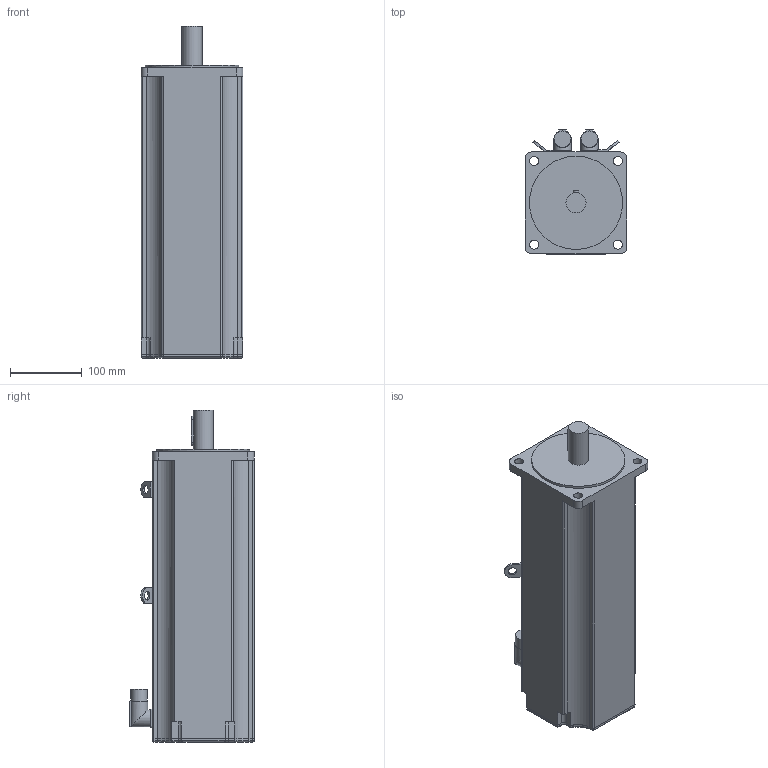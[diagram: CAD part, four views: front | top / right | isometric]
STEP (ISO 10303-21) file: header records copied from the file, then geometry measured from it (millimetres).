
FILE_DESCRIPTION(/* description */ (''),/* implementation_level */ '2;1');
FILE_NAME(/* name */ '\\Lafnas01\disegni\Archivi Lafert\3D\CAD 3D\MODELLI\Assiemi clienti\Serad\Modelli 3D Serad\B71Q\Encoder\Enc Without Brake\B7138Qxx6ARx2033.ipt.stp',/* time_stamp */ '2015-09-07T10:52:47+02:00',/* author */ ('Pastrello Ylenia'),/* organization */ (''),/* preprocessor_version */ 'ST-DEVELOPER v15.6',/* originating_system */ 'Autodesk Inventor 2015',/* authorisation */ '');
FILE_SCHEMA (('AUTOMOTIVE_DESIGN { 1 0 10303 214 3 1 1 }'));
Length unit declared in the file: millimetre
Products named in the file (1): B7138Qxx6ARx2033
Bounding box: 142 x 173.5 x 463 mm (x, y, z)
Volume: 7187966.5 mm3; surface area: 268332.3 mm2
Topology: 1 solids, 1 shells, 172 faces, 450 edges, 290 vertices
Faces by surface type: plane 86, cylinder 74, torus 8, sphere 4
Full cylindrical faces by diameter (mm): 12 x2, 12.5 x4, 22.7 x2, 24 x2, 28 x1, 130 x1
Entity records: 5354 total; most frequent: CARTESIAN_POINT 1031, DIRECTION 920, ORIENTED_EDGE 868, EDGE_CURVE 434, AXIS2_PLACEMENT_3D 323, VERTEX_POINT 286, LINE 274, VECTOR 274
